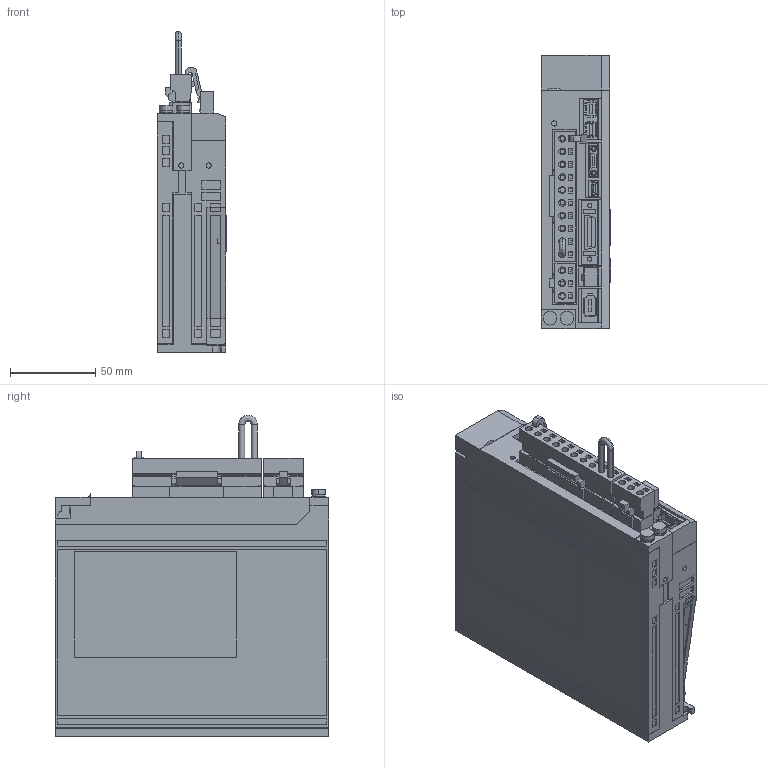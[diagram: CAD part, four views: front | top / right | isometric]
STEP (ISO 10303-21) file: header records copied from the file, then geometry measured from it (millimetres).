
FILE_DESCRIPTION (( 'STEP AP203' ), '1' );
FILE_NAME ('sgdv_r70a2_a.STEP', '2012-08-08T00:35:47', ( '匠エンジニアリング山之内' ), ( 'TAKUMI-Engniaring' ), 'SwSTEP 2.0', 'SolidWorks 2006303', '' );
FILE_SCHEMA (( 'CONFIG_CONTROL_DESIGN' ));
Length unit declared in the file: millimetre
Products named in the file (10): sgdv_r70a2_a_cable; sgdv_r70a2_a_pin; sgdv_r70a2_a; sgdv_r70a2_a_base; sgdv_r70a2_a_connector; sgdv_r70a2_a_connector_2; sgdv_r70a2_a_connector_1; sgdv_r70a2_a_cover; sgdv_r70a2_a_cover2; sgdv_r70a2_a_connector_3
Assembly tree (10 placements, depth 3):
  sgdv_r70a2_a
    sgdv_r70a2_a_connector_3
    sgdv_r70a2_a_connector_1
    sgdv_r70a2_a_base
    sgdv_r70a2_a_cover2  x2
    sgdv_r70a2_a_connector
      sgdv_r70a2_a_pin
      sgdv_r70a2_a_connector_2
      sgdv_r70a2_a_cable
    sgdv_r70a2_a_cover
Bounding box: 40.5 x 160 x 188 mm (x, y, z)
Volume: 829779.7 mm3; surface area: 134869.4 mm2
Topology: 9 solids, 9 shells, 1917 faces, 5077 edges, 3337 vertices
Faces by surface type: plane 1733, cylinder 177, cone 4, torus 2, sphere 1
Entity records: 58771 total; most frequent: CARTESIAN_POINT 10249, ORIENTED_EDGE 10046, DIRECTION 9218, EDGE_CURVE 5023, LINE 4638, VECTOR 4638, VERTEX_POINT 3301, AXIS2_PLACEMENT_3D 2290
